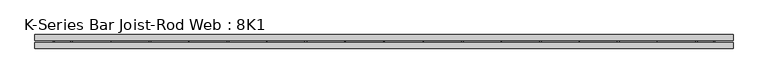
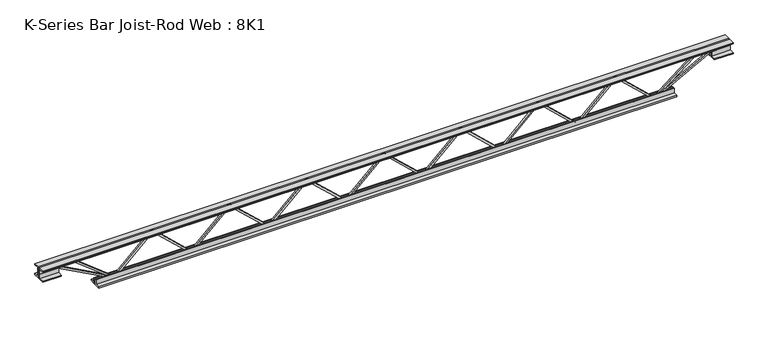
"""IFC4 building model written with IfcOpenShell, lengths in millimetres: beam geometry, K-Series Bar Joist-Rod Web : 8K1."""

from ifc_helpers import new_model, si_unit, frame, origin, place, context, project, spatial, polyline, outline, extrude, source, transform, mapped, element, save


def k_series_bar_joist_rod_web_8k1_67cc681e(model_context):
    return source(origin(), model_context, "Body", "SweptSolid", [
        extrude(outline(polyline([(-90.4875, 629.4128318), (-100.0125, 629.4128318), (-100.0125, 634.4694324), (90.4875, 837.9237097), (90.4875, 840.5105084), (-100.0125, 1043.9647856), (-100.0125, 1049.0213863), (-90.4875, 1049.0213863), (-90.4875, 1047.7279869), (100.0125, 844.2737097), (100.0125, 834.1605084), (-90.4875, 630.7062311), (-90.4875, 629.4128318)])), frame((0.0, -4.7625, 0.0), z_axis=(0.0, 1.0, 0.0), x_axis=(0.0, 0.0, 1.0)), (0.0, 0.0, 1.0), 9.525),
        extrude(outline(polyline([(-90.4875, 209.8042773), (-100.0125, 209.8042773), (-100.0125, 214.8608779), (90.4875, 418.3151552), (90.4875, 420.9019538), (-100.0125, 624.3562311), (-100.0125, 629.4128318), (-90.4875, 629.4128318), (-90.4875, 628.1194324), (100.0125, 424.6651552), (100.0125, 414.5519538), (-90.4875, 211.0976766), (-90.4875, 209.8042773)])), frame((0.0, -4.7625, 0.0), z_axis=(0.0, 1.0, 0.0), x_axis=(0.0, 0.0, 1.0)), (0.0, 0.0, 1.0), 9.525),
        extrude(outline(polyline([(-90.4875, -209.8042773), (-100.0125, -209.8042773), (-100.0125, -204.7476766), (90.4875, -1.2933993), (90.4875, 1.2933993), (-100.0125, 204.7476766), (-100.0125, 209.8042773), (-90.4875, 209.8042773), (-90.4875, 208.5108779), (100.0125, 5.0566007), (100.0125, -5.0566007), (-90.4875, -208.5108779), (-90.4875, -209.8042773)])), frame((0.0, -4.7625, 0.0), z_axis=(0.0, 1.0, 0.0), x_axis=(0.0, 0.0, 1.0)), (0.0, 0.0, 1.0), 9.525),
        extrude(outline(polyline([(-90.4875, -629.4128318), (-100.0125, -629.4128318), (-100.0125, -624.3562311), (90.4875, -420.9019538), (90.4875, -418.3151552), (-100.0125, -214.8608779), (-100.0125, -209.8042773), (-90.4875, -209.8042773), (-90.4875, -211.0976766), (100.0125, -414.5519538), (100.0125, -424.6651552), (-90.4875, -628.1194324), (-90.4875, -629.4128318)])), frame((0.0, -4.7625, 0.0), z_axis=(0.0, 1.0, 0.0), x_axis=(0.0, 0.0, 1.0)), (0.0, 0.0, 1.0), 9.525),
        extrude(outline(polyline([(-90.4875, -1049.0213863), (-100.0125, -1049.0213863), (-100.0125, -1043.9647856), (90.4875, -840.5105084), (90.4875, -837.9237097), (-100.0125, -634.4694324), (-100.0125, -629.4128318), (-90.4875, -629.4128318), (-90.4875, -630.7062311), (100.0125, -834.1605084), (100.0125, -844.2737097), (-90.4875, -1047.7279869), (-90.4875, -1049.0213863)])), frame((0.0, -4.7625, 0.0), z_axis=(0.0, 1.0, 0.0), x_axis=(0.0, 0.0, 1.0)), (0.0, 0.0, 1.0), 9.525),
        extrude(outline(polyline([(-90.4875, 1049.0213863), (-100.0125, 1049.0213863), (-100.0125, 1054.0779869), (90.4875, 1257.5322642), (90.4875, 1260.1190629), (-100.0125, 1463.5733401), (-100.0125, 1468.6299408), (-90.4875, 1468.6299408), (-90.4875, 1467.3365415), (100.0125, 1263.8822642), (100.0125, 1253.7690629), (-90.4875, 1050.3147856), (-90.4875, 1049.0213863)])), frame((0.0, -4.7625, 0.0), z_axis=(0.0, 1.0, 0.0), x_axis=(0.0, 0.0, 1.0)), (0.0, 0.0, 1.0), 9.525),
        extrude(outline(polyline([(-90.4875, -1468.6299408), (-100.0125, -1468.6299408), (-100.0125, -1463.5733401), (90.4875, -1260.1190629), (90.4875, -1257.5322642), (-100.0125, -1054.0779869), (-100.0125, -1049.0213863), (-90.4875, -1049.0213863), (-90.4875, -1050.3147856), (100.0125, -1253.7690629), (100.0125, -1263.8822642), (-90.4875, -1467.3365415), (-90.4875, -1468.6299408)])), frame((0.0, -4.7625, 0.0), z_axis=(0.0, 1.0, 0.0), x_axis=(0.0, 0.0, 1.0)), (0.0, 0.0, 1.0), 9.525),
        extrude(outline(polyline([(4.7625, 101.6), (36.5125, 101.6), (36.5125, 95.25), (11.1125, 95.25), (11.1125, 69.85), (4.7625, 69.85), (4.7625, 101.6)])), frame((-1875.0299408, 0.0, 0.0), z_axis=(1.0, 0.0, 0.0), x_axis=(0.0, 1.0, 0.0)), (0.0, 0.0, 1.0), 3750.0598816),
        extrude(outline(polyline([(-4.7625, 101.6), (-4.7625, 69.85), (-11.1125, 69.85), (-11.1125, 95.25), (-36.5125, 95.25), (-36.5125, 101.6), (-4.7625, 101.6)])), frame((-1875.0299408, 0.0, 0.0), z_axis=(1.0, 0.0, 0.0), x_axis=(0.0, 1.0, 0.0)), (0.0, 0.0, 1.0), 3750.0598816),
        extrude(outline(polyline([(-4.7625, 38.1), (-36.5125, 38.1), (-36.5125, 44.45), (-11.1125, 44.45), (-11.1125, 69.85), (-4.7625, 69.85), (-4.7625, 38.1)])), frame((-1875.0299408, 0.0, 0.0), z_axis=(1.0, 0.0, 0.0), x_axis=(0.0, 1.0, 0.0)), (0.0, 0.0, 1.0), 101.6),
        extrude(outline(polyline([(36.5125, 38.1), (4.7625, 38.1), (4.7625, 69.85), (11.1125, 69.85), (11.1125, 44.45), (36.5125, 44.45), (36.5125, 38.1)])), frame((-1875.0299408, 0.0, 0.0), z_axis=(1.0, 0.0, 0.0), x_axis=(0.0, 1.0, 0.0)), (0.0, 0.0, 1.0), 101.6),
        extrude(outline(polyline([(4.7625, 38.1), (4.7625, 69.85), (11.1125, 69.85), (11.1125, 44.45), (36.5125, 44.45), (36.5125, 38.1), (4.7625, 38.1)])), frame((1773.4299408, 0.0, 0.0), z_axis=(1.0, 0.0, 0.0), x_axis=(0.0, 1.0, 0.0)), (0.0, 0.0, 1.0), 101.6),
        extrude(outline(polyline([(-4.7625, 38.1), (-36.5125, 38.1), (-36.5125, 44.45), (-11.1125, 44.45), (-11.1125, 69.85), (-4.7625, 69.85), (-4.7625, 38.1)])), frame((1773.4299408, 0.0, 0.0), z_axis=(1.0, 0.0, 0.0), x_axis=(0.0, 1.0, 0.0)), (0.0, 0.0, 1.0), 101.6),
        extrude(outline(polyline([(4.7625, -101.6), (4.7625, -69.85), (11.1125, -69.85), (11.1125, -95.25), (36.5125, -95.25), (36.5125, -101.6), (4.7625, -101.6)])), frame((-1570.2299408, 0.0, 0.0), z_axis=(1.0, 0.0, 0.0), x_axis=(0.0, 1.0, 0.0)), (0.0, 0.0, 1.0), 3140.4598816),
        extrude(outline(polyline([(-4.7625, -101.6), (-36.5125, -101.6), (-36.5125, -95.25), (-11.1125, -95.25), (-11.1125, -69.85), (-4.7625, -69.85), (-4.7625, -101.6)])), frame((-1570.2299408, 0.0, 0.0), z_axis=(1.0, 0.0, 0.0), x_axis=(0.0, 1.0, 0.0)), (0.0, 0.0, 1.0), 3140.4598816),
        extrude(outline(polyline([(0.0, -9.525), (0.0, 0.0), (346.6425392, 0.0), (346.6425392, -9.525), (0.0, -9.525)])), frame((-1775.6982393, 4.7625, 65.662372), z_axis=(0.47628314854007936, 0.0, 0.8792919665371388), x_axis=(0.8792919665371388, 0.0, -0.47628314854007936)), (0.0, 0.0, 1.0), 9.525),
        extrude(outline(polyline([(0.0, -9.525), (0.0, 0.0), (266.9753636, 0.0), (266.9753636, -9.525), (0.0, -9.525)])), frame((-1681.3793915, 4.7625, 66.1073593), z_axis=(0.6184091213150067, 0.0, 0.7858563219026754), x_axis=(0.7858563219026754, 0.0, -0.6184091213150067)), (0.0, 0.0, 1.0), 9.525),
        extrude(outline(polyline([(0.0, -9.525), (0.0, 0.0), (346.6425392, 0.0), (346.6425392, -9.525), (0.0, -9.525)])), frame((1775.6982393, -4.7625, 65.662372), z_axis=(-0.47628314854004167, 0.0, 0.8792919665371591), x_axis=(-0.8792919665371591, 0.0, -0.47628314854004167)), (0.0, 0.0, 1.0), 9.525),
        extrude(outline(polyline([(0.0, -9.525), (0.0, 0.0), (266.9753636, 0.0), (266.9753636, -9.525), (0.0, -9.525)])), frame((1681.3793915, -4.7625, 66.1073593), z_axis=(-0.6184091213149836, 0.0, 0.7858563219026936), x_axis=(-0.7858563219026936, 0.0, -0.6184091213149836)), (0.0, 0.0, 1.0), 9.525),
    ])


if __name__ == "__main__":
    model = new_model("IFC4")
    model_context = context("Model", 3, world=origin())
    ifc_project = project(units=[si_unit("LENGTHUNIT", "METRE", prefix="MILLI")], contexts=[model_context])
    site = spatial("IfcSite", under=ifc_project)
    building = spatial("IfcBuilding", under=site)
    placement = place(None, origin())
    k_series_bar_joist_rod_web_8k1_shape = k_series_bar_joist_rod_web_8k1_67cc681e(model_context)
    element("IfcBeam", 1, ObjectType="K-Series Bar Joist-Rod Web : 8K1", at=placement, inside=building, context=model_context, shape_type="MappedRepresentation", body=[
        mapped(k_series_bar_joist_rod_web_8k1_shape, transform((0.0, 0.0, 0.0), x_axis=(1.0, 0.0, 0.0), y_axis=(0.0, 1.0, 0.0), z_axis=(0.0, 0.0, 1.0))),
    ])
    save(model, "model.ifc")
